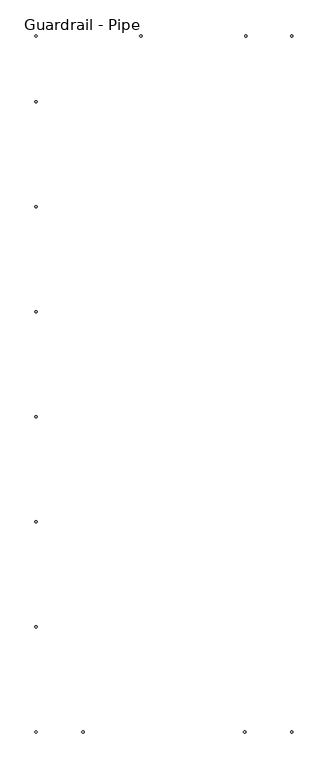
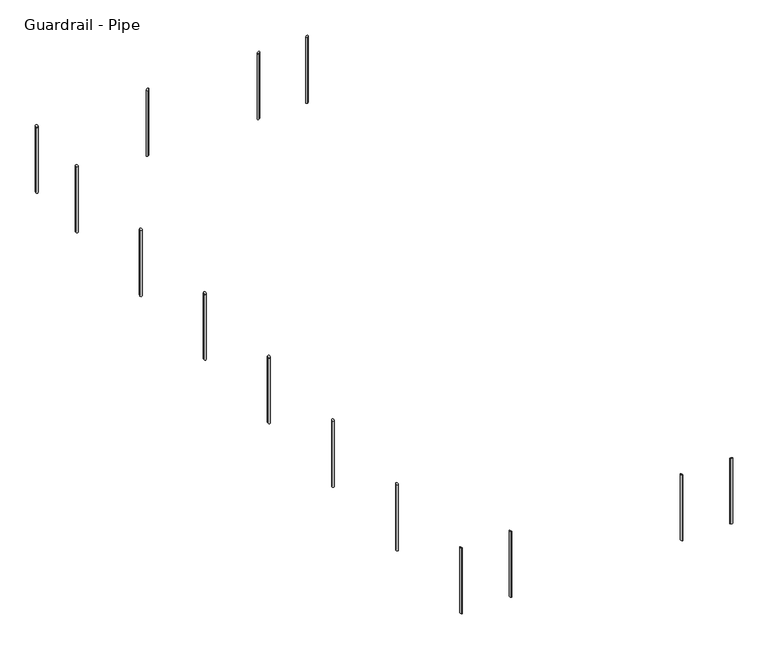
"""IFC4 building model written with IfcOpenShell, lengths in millimetres: railing geometry, Guardrail - Pipe."""

import ifcopenshell
import ifcopenshell.guid

model = None  # the IFC model being written
_history = None  # IfcOwnerHistory: only IFC2X3 demands one
_inside = {}  # id of a spatial element -> (the spatial element, [elements in it])
_under = {}  # id of a project, library or spatial element -> (it, [spatial elements below it])
_declared = {}  # id of a project -> (the project, [libraries it declares])
_typed = {}  # id of a type object -> (the type object, [elements of that type])
_made_of = {}  # id of a material, layer set ... -> (it, [elements and type objects made of it])


def new_model(schema):
    """Start an empty IFC model of exactly this schema.

    Asked for "IFC4X3", IfcOpenShell would pick the latest addendum, in which some entities
    have other attributes; the version numbers below select the first issue.
    IFC2X3 requires an IfcOwnerHistory on every rooted entity: one is made here for all.
    """
    global model, _history
    if schema == "IFC4X3":
        model = ifcopenshell.file(schema_version=(4, 3, 0, 0))
    else:
        model = ifcopenshell.file(schema=schema)
    _inside.clear()
    _under.clear()
    _declared.clear()
    _typed.clear()
    _made_of.clear()
    _history = None
    if model.schema == "IFC2X3":
        org = make("IfcOrganization", Name="unknown")
        user = make(
            "IfcPersonAndOrganization",
            ThePerson=make("IfcPerson", FamilyName="unknown"),
            TheOrganization=org,
        )
        app = make(
            "IfcApplication",
            ApplicationDeveloper=org,
            Version="unknown",
            ApplicationFullName="unknown",
            ApplicationIdentifier="unknown",
        )
        _history = make(
            "IfcOwnerHistory",
            OwningUser=user,
            OwningApplication=app,
            ChangeAction="ADDED",
            CreationDate=0,
        )
    return model


def make(cls, **values):
    """One entity of the class cls with the attributes given. An attribute that is None is left unset."""
    return model.create_entity(
        cls, **{name: value for name, value in values.items() if value is not None}
    )


def rooted(cls, **values):
    """An entity with a GlobalId (a new one), such as an element, a storey or a relation."""
    return make(cls, GlobalId=ifcopenshell.guid.new(), OwnerHistory=_history, **values)


def si_unit(unit_type, name, prefix=None):
    """IfcSIUnit, for example si_unit("LENGTHUNIT", "METRE", prefix="MILLI")."""
    return make("IfcSIUnit", UnitType=unit_type, Prefix=prefix, Name=name)


def assignment(units):
    """IfcUnitAssignment: the units of a project."""
    return None if units is None else make("IfcUnitAssignment", Units=units)


def point(xyz):
    """IfcCartesianPoint."""
    return None if xyz is None else make("IfcCartesianPoint", Coordinates=xyz)


def direction(xyz):
    """IfcDirection."""
    return None if xyz is None else make("IfcDirection", DirectionRatios=xyz)


def frame(location, z_axis=None, x_axis=None):
    """IfcAxis2Placement3D, a coordinate frame: its origin and axes. An axis left out is left unset."""
    return make(
        "IfcAxis2Placement3D",
        Location=point(location),
        Axis=direction(z_axis),
        RefDirection=direction(x_axis),
    )


def origin():
    """The frame at (0, 0, 0) with its axes left unset."""
    return frame((0.0, 0.0, 0.0))


def place(relative_to, where):
    """IfcLocalPlacement: puts the frame where relative to a parent placement (None: the world)."""
    return make(
        "IfcLocalPlacement", PlacementRelTo=relative_to, RelativePlacement=where
    )


def context(
    kind, dimensions, precision=None, world=None, true_north=None, identifier=None
):
    """IfcGeometricRepresentationContext, for example the 3D "Model" context."""
    return make(
        "IfcGeometricRepresentationContext",
        ContextIdentifier=identifier,
        ContextType=kind,
        CoordinateSpaceDimension=dimensions,
        Precision=precision,
        WorldCoordinateSystem=world,
        TrueNorth=true_north,
    )


def project(units=None, contexts=None):
    """IfcProject with its units and contexts."""
    return rooted(
        "IfcProject",
        Name="project",
        RepresentationContexts=contexts,
        UnitsInContext=assignment(units),
    )


def spatial(cls, under=None, at=None, **own):
    """A site, building, storey or space (cls), placed at a placement, below another one or the project."""
    s = rooted(cls, ObjectPlacement=at, **own)
    if under is not None:
        _under.setdefault(under.id(), (under, []))[1].append(s)
    return s


def ellipse_curve(where, semi_axis1, semi_axis2):
    """IfcEllipse in the frame where."""
    return make(
        "IfcEllipse", Position=where, SemiAxis1=semi_axis1, SemiAxis2=semi_axis2
    )


def shape(context_of_items, identifier, shape_type, items):
    """IfcShapeRepresentation: the items that make up one representation, for example the "Body"."""
    return make(
        "IfcShapeRepresentation",
        ContextOfItems=context_of_items,
        RepresentationIdentifier=identifier,
        RepresentationType=shape_type,
        Items=items,
    )


def source(mapping_origin, context_of_items, identifier, shape_type, items):
    """IfcRepresentationMap: a shape defined once, which mapped items show again and again."""
    return make(
        "IfcRepresentationMap",
        MappingOrigin=mapping_origin,
        MappedRepresentation=shape(context_of_items, identifier, shape_type, items),
    )


def transform(
    local_origin,
    x_axis=None,
    y_axis=None,
    z_axis=None,
    scale=None,
    scale2=None,
    scale3=None,
    uniform=True,
):
    """IfcCartesianTransformationOperator3D, or its non-uniform kind. x_axis, y_axis, z_axis: its Axis1, 2, 3."""
    if uniform:
        return make(
            "IfcCartesianTransformationOperator3D",
            Axis1=direction(x_axis),
            Axis2=direction(y_axis),
            LocalOrigin=point(local_origin),
            Scale=scale,
            Axis3=direction(z_axis),
        )
    return make(
        "IfcCartesianTransformationOperator3DnonUniform",
        Axis1=direction(x_axis),
        Axis2=direction(y_axis),
        LocalOrigin=point(local_origin),
        Scale=scale,
        Axis3=direction(z_axis),
        Scale2=scale2,
        Scale3=scale3,
    )


def mapped(mapping_source, mapping_target):
    """IfcMappedItem: shows the shape of a source again, moved by a transform."""
    return make(
        "IfcMappedItem", MappingSource=mapping_source, MappingTarget=mapping_target
    )


def made_of(thing, what):
    """Note that an element or type object is made of a material, layer set ...; save() writes the relation."""
    if what is not None:
        _made_of.setdefault(what.id(), (what, []))[1].append(thing)
    return thing


def element(
    cls,
    number,
    at=None,
    inside=None,
    cuts=None,
    type_object=None,
    material=None,
    context=None,
    identifier="Body",
    shape_type=None,
    held_by="IfcProductDefinitionShape",
    body=None,
    shapes=None,
    **own,
):
    """One element of the class cls, such as IfcWall. Its Tag is "e" and its number.

    at: its placement. inside: the storey or other place that contains it. cuts: it is an
    opening in that element (IfcRelVoidsElement). A single representation is given by context,
    identifier, shape_type and body (its items); several are given by shapes. held_by: the class
    of the entity that holds the representations. save() writes the other relations.
    """
    e = rooted(cls, Tag="e%d" % number, ObjectPlacement=at, **own)
    if body is not None:
        shapes = [shape(context, identifier, shape_type, body)]
    if shapes is not None:
        e.Representation = make(held_by, Representations=shapes)
    if inside is not None:
        _inside.setdefault(inside.id(), (inside, []))[1].append(e)
    if cuts is not None:
        rooted(
            "IfcRelVoidsElement", RelatingBuildingElement=cuts, RelatedOpeningElement=e
        )
    if type_object is not None:
        _typed.setdefault(type_object.id(), (type_object, []))[1].append(e)
    return made_of(e, material)


def aggregate(whole, parts):
    """IfcRelAggregates: a whole, such as a stair, and the parts it consists of."""
    return rooted("IfcRelAggregates", RelatingObject=whole, RelatedObjects=parts)


def save(model, path):
    """Write the relations noted so far, then the file.

    IfcRelAggregates (storeys below a building ...), IfcRelContainedInSpatialStructure (elements
    in a storey), IfcRelDefinesByType, IfcRelAssociatesMaterial and IfcRelDeclares: one each for
    every whole, place, type object, material and project.
    """
    for whole, parts in _under.values():
        aggregate(whole, parts)
    for where, things in _inside.values():
        rooted(
            "IfcRelContainedInSpatialStructure",
            RelatedElements=things,
            RelatingStructure=where,
        )
    for kind, things in _typed.values():
        rooted("IfcRelDefinesByType", RelatedObjects=things, RelatingType=kind)
    for what, things in _made_of.values():
        rooted("IfcRelAssociatesMaterial", RelatedObjects=things, RelatingMaterial=what)
    for by, libraries in _declared.values():
        rooted("IfcRelDeclares", RelatingContext=by, RelatedDefinitions=libraries)
    model.write(path)


def plane_surface(at):
    """IfcPlane: the flat surface through the origin of the frame at, square to its z axis."""
    return make("IfcPlane", Position=at)


def cylinder_surface(at, radius):
    """IfcCylindricalSurface: all points at the distance radius from the z axis of the frame at."""
    return make("IfcCylindricalSurface", Position=at, Radius=radius)


def advanced_brep(points, edges, surfaces, faces):
    """IfcAdvancedBrep: a solid bounded by faces that lie on surfaces and meet in shared edges.

    An edge is (start, end): straight between two places in points (the first is 0);
    or (start, end, curve); or (start, end, curve, False) where it runs against its curve.
    A face is (place in surfaces, loops), or (place, loops, False) where it looks against
    its surface's normal. A loop lists edges by number (the first is 1), with a minus sign
    where the edge is run from its end to its start. The first loop is the outer one.
    """
    corners = [point(p) for p in points]
    vertices = [make("IfcVertexPoint", VertexGeometry=c) for c in corners]
    made = []
    for start, end, *more in edges:
        made.append(
            make(
                "IfcEdgeCurve",
                EdgeStart=vertices[start],
                EdgeEnd=vertices[end],
                EdgeGeometry=more[0] if more else make("IfcPolyline", Points=[corners[start], corners[end]]),
                SameSense=more[1] if len(more) > 1 else True,
            )
        )
    hull = []
    for where, loops, *sense in faces:
        bounds = []
        for j, loop in enumerate(loops):
            ring = [make("IfcOrientedEdge", EdgeElement=made[abs(k) - 1], Orientation=k > 0) for k in loop]
            bounds.append(
                make(
                    "IfcFaceOuterBound" if j == 0 else "IfcFaceBound",
                    Bound=make("IfcEdgeLoop", EdgeList=ring),
                    Orientation=True,
                )
            )
        hull.append(make("IfcAdvancedFace", Bounds=bounds, FaceSurface=surfaces[where], SameSense=sense[0] if sense else True))
    return make("IfcAdvancedBrep", Outer=make("IfcClosedShell", CfsFaces=hull))


def guardrail_pipe_e2f870d2(model_context):
    return source(origin(), model_context, "Body", "AdvancedBrep", [
        advanced_brep(
        [(13413.9313551, 29924.3, 8077.2), (13413.9313551, 29924.3, 7315.2), (13413.9313551, 29949.7, 7315.2), (13413.9313551, 29949.7, 8077.2)],
        [
            (0, 1),
            (1, 2, ellipse_curve(frame((13413.9313551, 29937.0, 7315.2), z_axis=(-0.536857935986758, 0.0, 0.8436726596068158), x_axis=(0.8436726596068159, 0.0, 0.536857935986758)), 15.0532317, 12.7)),
            (2, 3),
            (3, 0, ellipse_curve(frame((13413.9313551, 29937.0, 8077.2), z_axis=(0.5368579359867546, 0.0, -0.8436726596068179), x_axis=(0.843672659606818, 0.0, 0.5368579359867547)), 15.0532317, 12.7)),
            (0, 3, ellipse_curve(frame((13413.9313551, 29937.0, 8077.2), z_axis=(0.5368579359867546, 0.0, -0.8436726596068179), x_axis=(0.843672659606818, 0.0, 0.5368579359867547)), 15.0532317, 12.7)),
            (2, 1, ellipse_curve(frame((13413.9313551, 29937.0, 7315.2), z_axis=(-0.536857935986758, 0.0, 0.8436726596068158), x_axis=(0.8436726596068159, 0.0, 0.536857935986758)), 15.0532317, 12.7)),
        ],
        [
            cylinder_surface(frame((13413.9313551, 29937.0, 7086.6), z_axis=(0.0, 0.0, 1.0), x_axis=(0.0, 1.0, 0.0)), 12.7),
            plane_surface(frame((13439.3313551, 29962.4, 8093.3628938), z_axis=(-0.5368579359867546, 0.0, 0.8436726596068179), x_axis=(0.0, -1.0, 0.0))),
            plane_surface(frame((13388.5313551, 29962.4, 7299.0371062), z_axis=(0.536857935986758, 0.0, -0.8436726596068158), x_axis=(0.0, -1.0, 0.0))),
        ],
        [
            (0, [[1, 2, 3, 4]]),
            (0, [[-1, 5, -3, 6]]),
            (1, [[-4, -5]]),
            (2, [[-2, -6]]),
        ],
    ),
        advanced_brep(
        [(12194.7313551, 29924.3, 8077.2), (12194.7313551, 29924.3, 7315.2), (12194.7313551, 29949.7, 7315.2), (12194.7313551, 29949.7, 8077.2)],
        [
            (0, 1),
            (1, 2, ellipse_curve(frame((12194.7313551, 29937.0, 7315.2), z_axis=(-0.536857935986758, 0.0, 0.8436726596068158), x_axis=(0.8436726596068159, 0.0, 0.536857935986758)), 15.0532317, 12.7)),
            (2, 3),
            (3, 0, ellipse_curve(frame((12194.7313551, 29937.0, 8077.2), z_axis=(0.5368579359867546, 0.0, -0.8436726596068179), x_axis=(0.843672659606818, 0.0, 0.5368579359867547)), 15.0532317, 12.7)),
            (0, 3, ellipse_curve(frame((12194.7313551, 29937.0, 8077.2), z_axis=(0.5368579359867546, 0.0, -0.8436726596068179), x_axis=(0.843672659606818, 0.0, 0.5368579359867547)), 15.0532317, 12.7)),
            (2, 1, ellipse_curve(frame((12194.7313551, 29937.0, 7315.2), z_axis=(-0.536857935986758, 0.0, 0.8436726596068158), x_axis=(0.8436726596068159, 0.0, 0.536857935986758)), 15.0532317, 12.7)),
        ],
        [
            cylinder_surface(frame((12194.7313551, 29937.0, 7086.6), z_axis=(0.0, 0.0, 1.0), x_axis=(0.0, 1.0, 0.0)), 12.7),
            plane_surface(frame((12220.1313551, 29962.4, 8093.3628938), z_axis=(-0.5368579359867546, 0.0, 0.8436726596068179), x_axis=(0.0, -1.0, 0.0))),
            plane_surface(frame((12169.3313551, 29962.4, 7299.0371062), z_axis=(0.536857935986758, 0.0, -0.8436726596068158), x_axis=(0.0, -1.0, 0.0))),
        ],
        [
            (0, [[1, 2, 3, 4]]),
            (0, [[-1, 5, -3, 6]]),
            (1, [[-4, -5]]),
            (2, [[-2, -6]]),
        ],
    ),
        advanced_brep(
        [(10988.2313551, 29175.0, 8077.2), (10988.2313551, 29175.0, 7315.2), (10962.8313551, 29175.0, 7315.2), (10962.8313551, 29175.0, 8077.2)],
        [
            (0, 1),
            (1, 2, ellipse_curve(frame((10975.5313551, 29175.0, 7315.2), z_axis=(0.0, -0.536857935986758, 0.8436726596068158), x_axis=(0.0, 0.8436726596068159, 0.536857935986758)), 15.0532317, 12.7)),
            (2, 3),
            (3, 0, ellipse_curve(frame((10975.5313551, 29175.0, 8077.2), z_axis=(0.0, 0.5368579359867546, -0.8436726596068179), x_axis=(0.0, 0.843672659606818, 0.5368579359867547)), 15.0532317, 12.7)),
            (0, 3, ellipse_curve(frame((10975.5313551, 29175.0, 8077.2), z_axis=(0.0, 0.5368579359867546, -0.8436726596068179), x_axis=(0.0, 0.843672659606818, 0.5368579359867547)), 15.0532317, 12.7)),
            (2, 1, ellipse_curve(frame((10975.5313551, 29175.0, 7315.2), z_axis=(0.0, -0.536857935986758, 0.8436726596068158), x_axis=(0.0, 0.8436726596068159, 0.536857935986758)), 15.0532317, 12.7)),
        ],
        [
            cylinder_surface(frame((10975.5313551, 29175.0, 7086.6), z_axis=(0.0, 0.0, 1.0), x_axis=(-1.0, 0.0, 0.0)), 12.7),
            plane_surface(frame((10950.1313551, 29200.4, 8093.3628938), z_axis=(0.0, -0.5368579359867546, 0.8436726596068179), x_axis=(1.0, 0.0, 0.0))),
            plane_surface(frame((10950.1313551, 29149.6, 7299.0371062), z_axis=(0.0, 0.536857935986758, -0.8436726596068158), x_axis=(1.0, 0.0, 0.0))),
        ],
        [
            (0, [[1, 2, 3, 4]]),
            (0, [[-1, 5, -3, 6]]),
            (1, [[-4, -5]]),
            (2, [[-2, -6]]),
        ],
    ),
        advanced_brep(
        [(10988.2313551, 27955.8, 8077.2), (10988.2313551, 27955.8, 7315.2), (10962.8313551, 27955.8, 7315.2), (10962.8313551, 27955.8, 8077.2)],
        [
            (0, 1),
            (1, 2, ellipse_curve(frame((10975.5313551, 27955.8, 7315.2), z_axis=(0.0, -0.536857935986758, 0.8436726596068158), x_axis=(0.0, 0.8436726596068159, 0.536857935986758)), 15.0532317, 12.7)),
            (2, 3),
            (3, 0, ellipse_curve(frame((10975.5313551, 27955.8, 8077.2), z_axis=(0.0, 0.5368579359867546, -0.8436726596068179), x_axis=(0.0, 0.843672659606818, 0.5368579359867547)), 15.0532317, 12.7)),
            (0, 3, ellipse_curve(frame((10975.5313551, 27955.8, 8077.2), z_axis=(0.0, 0.5368579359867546, -0.8436726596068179), x_axis=(0.0, 0.843672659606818, 0.5368579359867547)), 15.0532317, 12.7)),
            (2, 1, ellipse_curve(frame((10975.5313551, 27955.8, 7315.2), z_axis=(0.0, -0.536857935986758, 0.8436726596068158), x_axis=(0.0, 0.8436726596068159, 0.536857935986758)), 15.0532317, 12.7)),
        ],
        [
            cylinder_surface(frame((10975.5313551, 27955.8, 7086.6), z_axis=(0.0, 0.0, 1.0), x_axis=(-1.0, 0.0, 0.0)), 12.7),
            plane_surface(frame((10950.1313551, 27981.2, 8093.3628938), z_axis=(0.0, -0.5368579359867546, 0.8436726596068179), x_axis=(1.0, 0.0, 0.0))),
            plane_surface(frame((10950.1313551, 27930.4, 7299.0371062), z_axis=(0.0, 0.536857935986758, -0.8436726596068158), x_axis=(1.0, 0.0, 0.0))),
        ],
        [
            (0, [[1, 2, 3, 4]]),
            (0, [[-1, 5, -3, 6]]),
            (1, [[-4, -5]]),
            (2, [[-2, -6]]),
        ],
    ),
        advanced_brep(
        [(10988.2313551, 26736.6, 8077.2), (10988.2313551, 26736.6, 7315.2), (10962.8313551, 26736.6, 7315.2), (10962.8313551, 26736.6, 8077.2)],
        [
            (0, 1),
            (1, 2, ellipse_curve(frame((10975.5313551, 26736.6, 7315.2), z_axis=(0.0, -0.536857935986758, 0.8436726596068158), x_axis=(0.0, 0.8436726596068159, 0.536857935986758)), 15.0532317, 12.7)),
            (2, 3),
            (3, 0, ellipse_curve(frame((10975.5313551, 26736.6, 8077.2), z_axis=(0.0, 0.5368579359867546, -0.8436726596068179), x_axis=(0.0, 0.843672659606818, 0.5368579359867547)), 15.0532317, 12.7)),
            (0, 3, ellipse_curve(frame((10975.5313551, 26736.6, 8077.2), z_axis=(0.0, 0.5368579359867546, -0.8436726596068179), x_axis=(0.0, 0.843672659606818, 0.5368579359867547)), 15.0532317, 12.7)),
            (2, 1, ellipse_curve(frame((10975.5313551, 26736.6, 7315.2), z_axis=(0.0, -0.536857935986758, 0.8436726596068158), x_axis=(0.0, 0.8436726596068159, 0.536857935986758)), 15.0532317, 12.7)),
        ],
        [
            cylinder_surface(frame((10975.5313551, 26736.6, 7086.6), z_axis=(0.0, 0.0, 1.0), x_axis=(-1.0, 0.0, 0.0)), 12.7),
            plane_surface(frame((10950.1313551, 26762.0, 8093.3628938), z_axis=(0.0, -0.5368579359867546, 0.8436726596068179), x_axis=(1.0, 0.0, 0.0))),
            plane_surface(frame((10950.1313551, 26711.2, 7299.0371062), z_axis=(0.0, 0.536857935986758, -0.8436726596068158), x_axis=(1.0, 0.0, 0.0))),
        ],
        [
            (0, [[1, 2, 3, 4]]),
            (0, [[-1, 5, -3, 6]]),
            (1, [[-4, -5]]),
            (2, [[-2, -6]]),
        ],
    ),
        advanced_brep(
        [(10988.2313551, 25517.4, 8077.2), (10988.2313551, 25517.4, 7315.2), (10962.8313551, 25517.4, 7315.2), (10962.8313551, 25517.4, 8077.2)],
        [
            (0, 1),
            (1, 2, ellipse_curve(frame((10975.5313551, 25517.4, 7315.2), z_axis=(0.0, -0.536857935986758, 0.8436726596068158), x_axis=(0.0, 0.8436726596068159, 0.536857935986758)), 15.0532317, 12.7)),
            (2, 3),
            (3, 0, ellipse_curve(frame((10975.5313551, 25517.4, 8077.2), z_axis=(0.0, 0.5368579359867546, -0.8436726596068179), x_axis=(0.0, 0.843672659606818, 0.5368579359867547)), 15.0532317, 12.7)),
            (0, 3, ellipse_curve(frame((10975.5313551, 25517.4, 8077.2), z_axis=(0.0, 0.5368579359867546, -0.8436726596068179), x_axis=(0.0, 0.843672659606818, 0.5368579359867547)), 15.0532317, 12.7)),
            (2, 1, ellipse_curve(frame((10975.5313551, 25517.4, 7315.2), z_axis=(0.0, -0.536857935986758, 0.8436726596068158), x_axis=(0.0, 0.8436726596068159, 0.536857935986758)), 15.0532317, 12.7)),
        ],
        [
            cylinder_surface(frame((10975.5313551, 25517.4, 7086.6), z_axis=(0.0, 0.0, 1.0), x_axis=(-1.0, 0.0, 0.0)), 12.7),
            plane_surface(frame((10950.1313551, 25542.8, 8093.3628938), z_axis=(0.0, -0.5368579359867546, 0.8436726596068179), x_axis=(1.0, 0.0, 0.0))),
            plane_surface(frame((10950.1313551, 25492.0, 7299.0371062), z_axis=(0.0, 0.536857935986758, -0.8436726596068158), x_axis=(1.0, 0.0, 0.0))),
        ],
        [
            (0, [[1, 2, 3, 4]]),
            (0, [[-1, 5, -3, 6]]),
            (1, [[-4, -5]]),
            (2, [[-2, -6]]),
        ],
    ),
        advanced_brep(
        [(10988.2313551, 24298.2, 8077.2), (10988.2313551, 24298.2, 7315.2), (10962.8313551, 24298.2, 7315.2), (10962.8313551, 24298.2, 8077.2)],
        [
            (0, 1),
            (1, 2, ellipse_curve(frame((10975.5313551, 24298.2, 7315.2), z_axis=(0.0, -0.536857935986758, 0.8436726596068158), x_axis=(0.0, 0.8436726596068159, 0.536857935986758)), 15.0532317, 12.7)),
            (2, 3),
            (3, 0, ellipse_curve(frame((10975.5313551, 24298.2, 8077.2), z_axis=(0.0, 0.5368579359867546, -0.8436726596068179), x_axis=(0.0, 0.843672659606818, 0.5368579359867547)), 15.0532317, 12.7)),
            (0, 3, ellipse_curve(frame((10975.5313551, 24298.2, 8077.2), z_axis=(0.0, 0.5368579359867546, -0.8436726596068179), x_axis=(0.0, 0.843672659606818, 0.5368579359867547)), 15.0532317, 12.7)),
            (2, 1, ellipse_curve(frame((10975.5313551, 24298.2, 7315.2), z_axis=(0.0, -0.536857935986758, 0.8436726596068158), x_axis=(0.0, 0.8436726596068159, 0.536857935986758)), 15.0532317, 12.7)),
        ],
        [
            cylinder_surface(frame((10975.5313551, 24298.2, 7086.6), z_axis=(0.0, 0.0, 1.0), x_axis=(-1.0, 0.0, 0.0)), 12.7),
            plane_surface(frame((10950.1313551, 24323.6, 8093.3628938), z_axis=(0.0, -0.5368579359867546, 0.8436726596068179), x_axis=(1.0, 0.0, 0.0))),
            plane_surface(frame((10950.1313551, 24272.8, 7299.0371062), z_axis=(0.0, 0.536857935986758, -0.8436726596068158), x_axis=(1.0, 0.0, 0.0))),
        ],
        [
            (0, [[1, 2, 3, 4]]),
            (0, [[-1, 5, -3, 6]]),
            (1, [[-4, -5]]),
            (2, [[-2, -6]]),
        ],
    ),
        advanced_brep(
        [(10988.2313551, 23079.0, 8077.2), (10988.2313551, 23079.0, 7315.2), (10962.8313551, 23079.0, 7315.2), (10962.8313551, 23079.0, 8077.2)],
        [
            (0, 1),
            (1, 2, ellipse_curve(frame((10975.5313551, 23079.0, 7315.2), z_axis=(0.0, -0.536857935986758, 0.8436726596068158), x_axis=(0.0, 0.8436726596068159, 0.536857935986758)), 15.0532317, 12.7)),
            (2, 3),
            (3, 0, ellipse_curve(frame((10975.5313551, 23079.0, 8077.2), z_axis=(0.0, 0.5368579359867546, -0.8436726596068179), x_axis=(0.0, 0.843672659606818, 0.5368579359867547)), 15.0532317, 12.7)),
            (0, 3, ellipse_curve(frame((10975.5313551, 23079.0, 8077.2), z_axis=(0.0, 0.5368579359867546, -0.8436726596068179), x_axis=(0.0, 0.843672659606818, 0.5368579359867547)), 15.0532317, 12.7)),
            (2, 1, ellipse_curve(frame((10975.5313551, 23079.0, 7315.2), z_axis=(0.0, -0.536857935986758, 0.8436726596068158), x_axis=(0.0, 0.8436726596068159, 0.536857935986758)), 15.0532317, 12.7)),
        ],
        [
            cylinder_surface(frame((10975.5313551, 23079.0, 7086.6), z_axis=(0.0, 0.0, 1.0), x_axis=(-1.0, 0.0, 0.0)), 12.7),
            plane_surface(frame((10950.1313551, 23104.4, 8093.3628938), z_axis=(0.0, -0.5368579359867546, 0.8436726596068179), x_axis=(1.0, 0.0, 0.0))),
            plane_surface(frame((10950.1313551, 23053.6, 7299.0371062), z_axis=(0.0, 0.536857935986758, -0.8436726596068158), x_axis=(1.0, 0.0, 0.0))),
        ],
        [
            (0, [[1, 2, 3, 4]]),
            (0, [[-1, 5, -3, 6]]),
            (1, [[-4, -5]]),
            (2, [[-2, -6]]),
        ],
    ),
        advanced_brep(
        [(13935.4313551, 21859.8, 8077.2), (13935.4313551, 21859.8, 7315.2), (13960.8313551, 21859.8, 7315.2), (13960.8313551, 21859.8, 8077.2)],
        [
            (0, 1),
            (1, 2, ellipse_curve(frame((13948.1313551, 21859.8, 7315.2), z_axis=(0.0, 0.536857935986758, 0.8436726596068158), x_axis=(0.0, -0.8436726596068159, 0.536857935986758)), 15.0532317, 12.7)),
            (2, 3),
            (3, 0, ellipse_curve(frame((13948.1313551, 21859.8, 8077.2), z_axis=(0.0, -0.5368579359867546, -0.8436726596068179), x_axis=(0.0, -0.843672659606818, 0.5368579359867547)), 15.0532317, 12.7)),
            (0, 3, ellipse_curve(frame((13948.1313551, 21859.8, 8077.2), z_axis=(0.0, -0.5368579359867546, -0.8436726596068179), x_axis=(0.0, -0.843672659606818, 0.5368579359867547)), 15.0532317, 12.7)),
            (2, 1, ellipse_curve(frame((13948.1313551, 21859.8, 7315.2), z_axis=(0.0, 0.536857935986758, 0.8436726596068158), x_axis=(0.0, -0.8436726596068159, 0.536857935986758)), 15.0532317, 12.7)),
        ],
        [
            cylinder_surface(frame((13948.1313551, 21859.8, 7086.6), z_axis=(0.0, 0.0, 1.0), x_axis=(1.0, 0.0, 0.0)), 12.7),
            plane_surface(frame((13973.5313551, 21834.4, 8093.3628938), z_axis=(0.0, 0.5368579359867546, 0.8436726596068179), x_axis=(-1.0, 0.0, 0.0))),
            plane_surface(frame((13973.5313551, 21885.2, 7299.0371062), z_axis=(0.0, -0.536857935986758, -0.8436726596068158), x_axis=(-1.0, 0.0, 0.0))),
        ],
        [
            (0, [[1, 2, 3, 4]]),
            (0, [[-1, 5, -3, 6]]),
            (1, [[-4, -5]]),
            (2, [[-2, -6]]),
        ],
    ),
        advanced_brep(
        [(13948.1313551, 29924.3, 8077.2), (13948.1313551, 29924.3, 7315.2), (13948.1313551, 29949.7, 7315.2), (13948.1313551, 29949.7, 8077.2)],
        [
            (0, 1),
            (1, 2, ellipse_curve(frame((13948.1313551, 29937.0, 7315.2), z_axis=(-0.536857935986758, 0.0, 0.8436726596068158), x_axis=(0.8436726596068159, 0.0, 0.536857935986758)), 15.0532317, 12.7)),
            (2, 3),
            (3, 0, ellipse_curve(frame((13948.1313551, 29937.0, 8077.2), z_axis=(0.5368579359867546, 0.0, -0.8436726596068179), x_axis=(0.843672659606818, 0.0, 0.5368579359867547)), 15.0532317, 12.7)),
            (0, 3, ellipse_curve(frame((13948.1313551, 29937.0, 8077.2), z_axis=(0.5368579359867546, 0.0, -0.8436726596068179), x_axis=(0.843672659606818, 0.0, 0.5368579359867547)), 15.0532317, 12.7)),
            (2, 1, ellipse_curve(frame((13948.1313551, 29937.0, 7315.2), z_axis=(-0.536857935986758, 0.0, 0.8436726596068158), x_axis=(0.8436726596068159, 0.0, 0.536857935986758)), 15.0532317, 12.7)),
        ],
        [
            cylinder_surface(frame((13948.1313551, 29937.0, 7086.6), z_axis=(0.0, 0.0, 1.0), x_axis=(0.0, 1.0, 0.0)), 12.7),
            plane_surface(frame((13973.5313551, 29962.4, 8093.3628938), z_axis=(-0.5368579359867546, 0.0, 0.8436726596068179), x_axis=(0.0, -1.0, 0.0))),
            plane_surface(frame((13922.7313551, 29962.4, 7299.0371062), z_axis=(0.536857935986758, 0.0, -0.8436726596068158), x_axis=(0.0, -1.0, 0.0))),
        ],
        [
            (0, [[1, 2, 3, 4]]),
            (0, [[-1, 5, -3, 6]]),
            (1, [[-4, -5]]),
            (2, [[-2, -6]]),
        ],
    ),
        advanced_brep(
        [(10988.2313551, 29937.0, 8077.2), (10988.2313551, 29937.0, 7315.2), (10962.8313551, 29937.0, 7315.2), (10962.8313551, 29937.0, 8077.2)],
        [
            (0, 1),
            (1, 2, ellipse_curve(frame((10975.5313551, 29937.0, 7315.2), z_axis=(0.0, -0.536857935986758, 0.8436726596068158), x_axis=(0.0, 0.8436726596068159, 0.536857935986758)), 15.0532317, 12.7)),
            (2, 3),
            (3, 0, ellipse_curve(frame((10975.5313551, 29937.0, 8077.2), z_axis=(0.0, 0.5368579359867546, -0.8436726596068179), x_axis=(0.0, 0.843672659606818, 0.5368579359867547)), 15.0532317, 12.7)),
            (0, 3, ellipse_curve(frame((10975.5313551, 29937.0, 8077.2), z_axis=(0.0, 0.5368579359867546, -0.8436726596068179), x_axis=(0.0, 0.843672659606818, 0.5368579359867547)), 15.0532317, 12.7)),
            (2, 1, ellipse_curve(frame((10975.5313551, 29937.0, 7315.2), z_axis=(0.0, -0.536857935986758, 0.8436726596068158), x_axis=(0.0, 0.8436726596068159, 0.536857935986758)), 15.0532317, 12.7)),
        ],
        [
            cylinder_surface(frame((10975.5313551, 29937.0, 7086.6), z_axis=(0.0, 0.0, 1.0), x_axis=(-1.0, 0.0, 0.0)), 12.7),
            plane_surface(frame((10950.1313551, 29962.4, 8093.3628938), z_axis=(0.0, -0.5368579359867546, 0.8436726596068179), x_axis=(1.0, 0.0, 0.0))),
            plane_surface(frame((10950.1313551, 29911.6, 7299.0371062), z_axis=(0.0, 0.536857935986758, -0.8436726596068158), x_axis=(1.0, 0.0, 0.0))),
        ],
        [
            (0, [[1, 2, 3, 4]]),
            (0, [[-1, 5, -3, 6]]),
            (1, [[-4, -5]]),
            (2, [[-2, -6]]),
        ],
    ),
        advanced_brep(
        [(10975.5313551, 21872.5, 8077.2), (10975.5313551, 21872.5, 7315.2), (10975.5313551, 21847.1, 7315.2), (10975.5313551, 21847.1, 8077.2)],
        [
            (0, 1),
            (1, 2, ellipse_curve(frame((10975.5313551, 21859.8, 7315.2), z_axis=(0.536857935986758, 0.0, 0.8436726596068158), x_axis=(-0.8436726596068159, 0.0, 0.536857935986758)), 15.0532317, 12.7)),
            (2, 3),
            (3, 0, ellipse_curve(frame((10975.5313551, 21859.8, 8077.2), z_axis=(-0.5368579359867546, 0.0, -0.8436726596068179), x_axis=(-0.843672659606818, 0.0, 0.5368579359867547)), 15.0532317, 12.7)),
            (0, 3, ellipse_curve(frame((10975.5313551, 21859.8, 8077.2), z_axis=(-0.5368579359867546, 0.0, -0.8436726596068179), x_axis=(-0.843672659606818, 0.0, 0.5368579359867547)), 15.0532317, 12.7)),
            (2, 1, ellipse_curve(frame((10975.5313551, 21859.8, 7315.2), z_axis=(0.536857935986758, 0.0, 0.8436726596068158), x_axis=(-0.8436726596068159, 0.0, 0.536857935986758)), 15.0532317, 12.7)),
        ],
        [
            cylinder_surface(frame((10975.5313551, 21859.8, 7086.6), z_axis=(0.0, 0.0, 1.0), x_axis=(0.0, -1.0, 0.0)), 12.7),
            plane_surface(frame((10950.1313551, 21834.4, 8093.3628938), z_axis=(0.5368579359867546, 0.0, 0.8436726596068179), x_axis=(0.0, 1.0, 0.0))),
            plane_surface(frame((11000.9313551, 21834.4, 7299.0371062), z_axis=(-0.536857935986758, 0.0, -0.8436726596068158), x_axis=(0.0, 1.0, 0.0))),
        ],
        [
            (0, [[1, 2, 3, 4]]),
            (0, [[-1, 5, -3, 6]]),
            (1, [[-4, -5]]),
            (2, [[-2, -6]]),
        ],
    ),
        advanced_brep(
        [(13402.0313551, 21872.5, 8077.2), (13402.0313551, 21872.5, 7315.2), (13402.0313551, 21847.1, 7315.2), (13402.0313551, 21847.1, 8077.2)],
        [
            (0, 1),
            (1, 2, ellipse_curve(frame((13402.0313551, 21859.8, 7315.2), z_axis=(0.536857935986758, 0.0, 0.8436726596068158), x_axis=(-0.8436726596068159, 0.0, 0.536857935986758)), 15.0532317, 12.7)),
            (2, 3),
            (3, 0, ellipse_curve(frame((13402.0313551, 21859.8, 8077.2), z_axis=(-0.5368579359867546, 0.0, -0.8436726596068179), x_axis=(-0.843672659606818, 0.0, 0.5368579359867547)), 15.0532317, 12.7)),
            (0, 3, ellipse_curve(frame((13402.0313551, 21859.8, 8077.2), z_axis=(-0.5368579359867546, 0.0, -0.8436726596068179), x_axis=(-0.843672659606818, 0.0, 0.5368579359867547)), 15.0532317, 12.7)),
            (2, 1, ellipse_curve(frame((13402.0313551, 21859.8, 7315.2), z_axis=(0.536857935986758, 0.0, 0.8436726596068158), x_axis=(-0.8436726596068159, 0.0, 0.536857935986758)), 15.0532317, 12.7)),
        ],
        [
            cylinder_surface(frame((13402.0313551, 21859.8, 7086.6), z_axis=(0.0, 0.0, 1.0), x_axis=(0.0, -1.0, 0.0)), 12.7),
            plane_surface(frame((13376.6313551, 21834.4, 8093.3628938), z_axis=(0.5368579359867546, 0.0, 0.8436726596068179), x_axis=(0.0, 1.0, 0.0))),
            plane_surface(frame((13427.4313551, 21834.4, 7299.0371062), z_axis=(-0.536857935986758, 0.0, -0.8436726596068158), x_axis=(0.0, 1.0, 0.0))),
        ],
        [
            (0, [[1, 2, 3, 4]]),
            (0, [[-1, 5, -3, 6]]),
            (1, [[-4, -5]]),
            (2, [[-2, -6]]),
        ],
    ),
        advanced_brep(
        [(11521.6313551, 21872.5, 8077.2), (11521.6313551, 21872.5, 7315.2), (11521.6313551, 21847.1, 7315.2), (11521.6313551, 21847.1, 8077.2)],
        [
            (0, 1),
            (1, 2, ellipse_curve(frame((11521.6313551, 21859.8, 7315.2), z_axis=(0.536857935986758, 0.0, 0.8436726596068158), x_axis=(-0.8436726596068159, 0.0, 0.536857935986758)), 15.0532317, 12.7)),
            (2, 3),
            (3, 0, ellipse_curve(frame((11521.6313551, 21859.8, 8077.2), z_axis=(-0.5368579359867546, 0.0, -0.8436726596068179), x_axis=(-0.843672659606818, 0.0, 0.5368579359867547)), 15.0532317, 12.7)),
            (0, 3, ellipse_curve(frame((11521.6313551, 21859.8, 8077.2), z_axis=(-0.5368579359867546, 0.0, -0.8436726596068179), x_axis=(-0.843672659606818, 0.0, 0.5368579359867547)), 15.0532317, 12.7)),
            (2, 1, ellipse_curve(frame((11521.6313551, 21859.8, 7315.2), z_axis=(0.536857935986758, 0.0, 0.8436726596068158), x_axis=(-0.8436726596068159, 0.0, 0.536857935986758)), 15.0532317, 12.7)),
        ],
        [
            cylinder_surface(frame((11521.6313551, 21859.8, 7086.6), z_axis=(0.0, 0.0, 1.0), x_axis=(0.0, -1.0, 0.0)), 12.7),
            plane_surface(frame((11496.2313551, 21834.4, 8093.3628938), z_axis=(0.5368579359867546, 0.0, 0.8436726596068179), x_axis=(0.0, 1.0, 0.0))),
            plane_surface(frame((11547.0313551, 21834.4, 7299.0371062), z_axis=(-0.536857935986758, 0.0, -0.8436726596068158), x_axis=(0.0, 1.0, 0.0))),
        ],
        [
            (0, [[1, 2, 3, 4]]),
            (0, [[-1, 5, -3, 6]]),
            (1, [[-4, -5]]),
            (2, [[-2, -6]]),
        ],
    ),
    ])


if __name__ == "__main__":
    model = new_model("IFC4")
    model_context = context("Model", 3, world=origin())
    ifc_project = project(units=[si_unit("LENGTHUNIT", "METRE", prefix="MILLI")], contexts=[model_context])
    site = spatial("IfcSite", under=ifc_project)
    building = spatial("IfcBuilding", under=site)
    placement = place(None, origin())
    guardrail_pipe_shape = guardrail_pipe_e2f870d2(model_context)
    element("IfcRailing", 1, ObjectType="Guardrail - Pipe", at=placement, inside=building, context=model_context, shape_type="MappedRepresentation", body=[
        mapped(guardrail_pipe_shape, transform((0.0, 0.0, 0.0), x_axis=(1.0, 0.0, 0.0), y_axis=(0.0, 1.0, 0.0), z_axis=(0.0, 0.0, 1.0))),
    ])
    save(model, "model.ifc")
